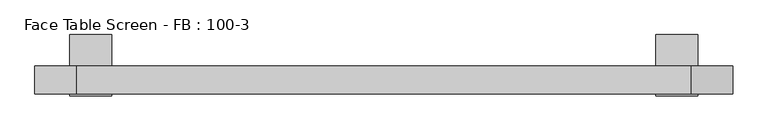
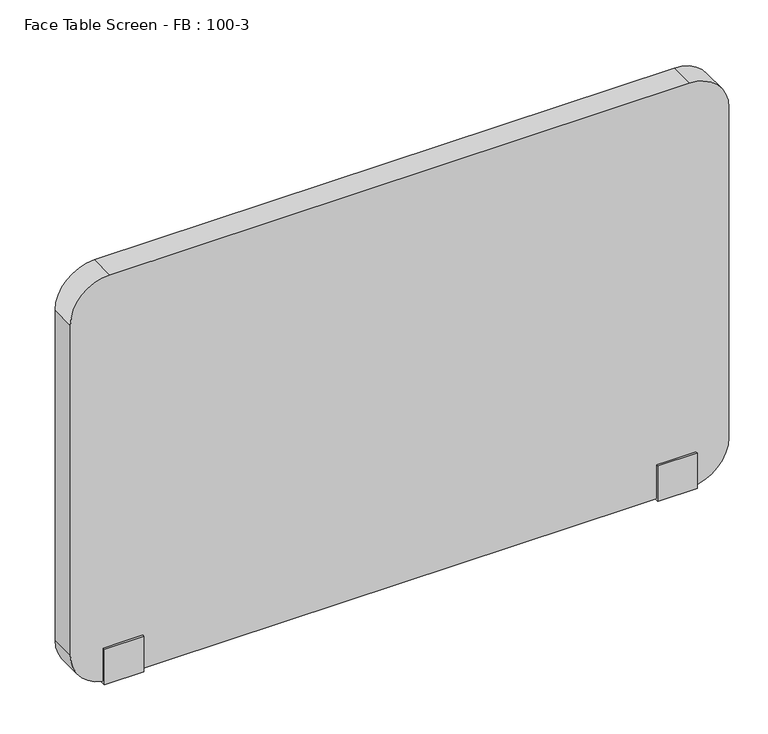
"""IFC4 building model written with IfcOpenShell, lengths in millimetres: furniture geometry, Face Table Screen - FB : 100-3."""

from ifc_helpers import new_model, si_unit, point, frame, frame_2d, origin, place, context, project, spatial, polyline, circle_curve, trimmed, segment, composite_curve, outline, extrude, source, transform, mapped, element, save


def face_table_screen_fb_100_3_f8ab295d(model_context):
    return source(origin(), model_context, "Body", "SweptSolid", [
        extrude(outline(polyline([(-42.9999947, -256.0), (-42.9999997, -199.0433898), (-40.0, -199.0433898), (-40.0, -253.0), (0.0, -253.0), (0.0, -22.0), (45.0, -22.0), (45.0, -25.0433898), (3.0000062, -25.0433898), (2.9999947, -256.0), (-42.9999947, -256.0)])), frame((409.9863751, 0.0, 0.0), z_axis=(1.0, 0.0, 0.0), x_axis=(0.0, 1.0, 0.0)), (0.0, 0.0, 1.0), 60.0),
        extrude(outline(polyline([(-42.9999947, -256.0), (-42.9999997, -199.0433898), (-40.0, -199.0433898), (-40.0, -253.0), (0.0, -253.0), (0.0, -22.0), (45.0, -22.0), (45.0, -25.0433898), (3.0000062, -25.0433898), (2.9999947, -256.0), (-42.9999947, -256.0)])), frame((-430.0136249, 0.0, 0.0), z_axis=(1.0, 0.0, 0.0), x_axis=(0.0, 1.0, 0.0)), (0.0, 0.0, 1.0), 60.0),
        extrude(outline(composite_curve([segment(polyline([(397.0, 459.9863751), (397.0, -420.0136249)]), True, "CONTINUOUS"), segment(trimmed(circle_curve(frame_2d((337.0, -420.0136249)), 60.0), [point((397.0, -420.0136249))], [point((337.0, -480.0136249))], False, "CARTESIAN"), True, "CONTINUOUS"), segment(polyline([(337.0, -480.0136249), (-193.0, -480.0136249)]), True, "CONTINUOUS"), segment(trimmed(circle_curve(frame_2d((-193.0, -420.0136249)), 60.0), [point((-193.0, -480.0136249))], [point((-253.0, -420.0136249))], False, "CARTESIAN"), True, "CONTINUOUS"), segment(polyline([(-253.0, -420.0136249), (-253.0, 459.9863751)]), True, "CONTINUOUS"), segment(trimmed(circle_curve(frame_2d((-193.0, 459.9863751)), 60.0), [point((-253.0, 459.9863751))], [point((-193.0, 519.9863751))], False, "CARTESIAN"), True, "CONTINUOUS"), segment(polyline([(-193.0, 519.9863751), (337.0, 519.9863751)]), True, "CONTINUOUS"), segment(trimmed(circle_curve(frame_2d((337.0, 459.9863751)), 60.0), [point((337.0, 519.9863751))], [point((397.0, 459.9863751))], False, "CARTESIAN"), True, "CONTINUOUS")], self_intersect=False)), frame((0.0, -40.0, 0.0), z_axis=(0.0, 1.0, 0.0), x_axis=(0.0, 0.0, 1.0)), (0.0, 0.0, 1.0), 40.0),
    ])


if __name__ == "__main__":
    model = new_model("IFC4")
    model_context = context("Model", 3, world=origin())
    ifc_project = project(units=[si_unit("LENGTHUNIT", "METRE", prefix="MILLI")], contexts=[model_context])
    site = spatial("IfcSite", under=ifc_project)
    building = spatial("IfcBuilding", under=site)
    placement = place(None, origin())
    face_table_screen_fb_100_3_shape = face_table_screen_fb_100_3_f8ab295d(model_context)
    element("IfcFurniture", 1, ObjectType="Face Table Screen - FB : 100-3", at=placement, inside=building, context=model_context, shape_type="MappedRepresentation", body=[
        mapped(face_table_screen_fb_100_3_shape, transform((0.0, 0.0, 0.0), x_axis=(1.0, 0.0, 0.0), y_axis=(0.0, 1.0, 0.0), z_axis=(0.0, 0.0, 1.0))),
    ])
    save(model, "model.ifc")
